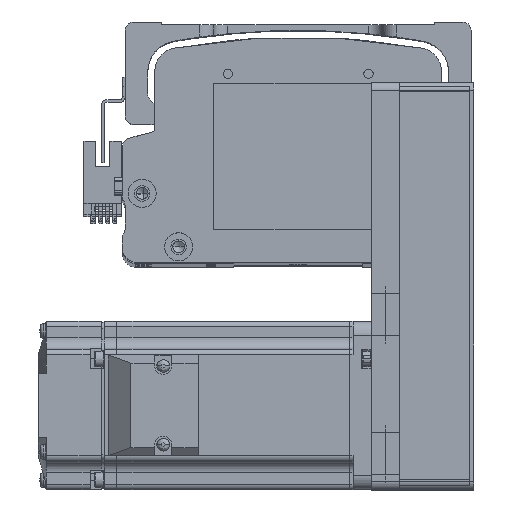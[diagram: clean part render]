
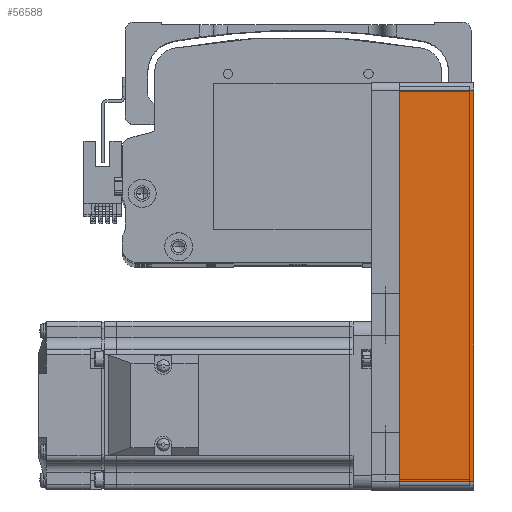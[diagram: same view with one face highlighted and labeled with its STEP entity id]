
A CAD part, top view. The second image highlights one B-rep face of the part: STEP entity #56588.
In plain terms, the highlighted planar face has unit normal (0, 0, 1) as drawn and (0, -1, 0) by its records, which use the part's own axes.
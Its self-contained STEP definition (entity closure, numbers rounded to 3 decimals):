
#4336 = CARTESIAN_POINT ( 'NONE',  ( 72.5, -30., 0. ) ) ;
#5888 = LINE ( 'NONE', #69046, #52781 ) ;
#8309 = CARTESIAN_POINT ( 'NONE',  ( -69.5, -30., 0. ) ) ;
#10793 = DIRECTION ( 'NONE',  ( 1., 0., 0. ) ) ;
#12136 = ORIENTED_EDGE ( 'NONE', *, *, #20473, .F. ) ;
#13749 = ORIENTED_EDGE ( 'NONE', *, *, #61125, .T. ) ;
#14767 = LINE ( 'NONE', #4336, #63685 ) ;
#16088 = CARTESIAN_POINT ( 'NONE',  ( 69.5, -30., 26.5 ) ) ;
#19118 = AXIS2_PLACEMENT_3D ( 'NONE', #66914, #28745, #73281 ) ;
#20473 = EDGE_CURVE ( 'NONE', #63090, #24195, #80944, .T. ) ;
#24195 = VERTEX_POINT ( 'NONE', #16088 ) ;
#26327 = EDGE_LOOP ( 'NONE', ( #13749, #37589, #12136, #67126 ) ) ;
#27168 = EDGE_CURVE ( 'NONE', #36450, #24195, #27257, .T. ) ;
#27257 = LINE ( 'NONE', #61302, #40201 ) ;
#28745 = DIRECTION ( 'NONE',  ( 0., 1., 0. ) ) ;
#29620 = DIRECTION ( 'NONE',  ( 1., 0., 0. ) ) ;
#36450 = VERTEX_POINT ( 'NONE', #71958 ) ;
#37589 = ORIENTED_EDGE ( 'NONE', *, *, #27168, .T. ) ;
#40201 = VECTOR ( 'NONE', #74085, 1000. ) ;
#40546 = CARTESIAN_POINT ( 'NONE',  ( -69.5, -30., 26.5 ) ) ;
#41188 = FACE_OUTER_BOUND ( 'NONE', #26327, .T. ) ;
#41265 = PLANE ( 'NONE',  #19118 ) ;
#52781 = VECTOR ( 'NONE', #56505, 1000. ) ;
#56505 = DIRECTION ( 'NONE',  ( 0., 0., -1. ) ) ;
#56588 = ADVANCED_FACE ( 'NONE', ( #41188 ), #41265, .F. ) ;
#61125 = EDGE_CURVE ( 'NONE', #73210, #36450, #14767, .T. ) ;
#61302 = CARTESIAN_POINT ( 'NONE',  ( 69.5, -30., 26.5 ) ) ;
#62020 = VECTOR ( 'NONE', #29620, 1000. ) ;
#63090 = VERTEX_POINT ( 'NONE', #40546 ) ;
#63685 = VECTOR ( 'NONE', #10793, 1000. ) ;
#66914 = CARTESIAN_POINT ( 'NONE',  ( 72.5, -30., 26.5 ) ) ;
#67126 = ORIENTED_EDGE ( 'NONE', *, *, #73529, .T. ) ;
#69046 = CARTESIAN_POINT ( 'NONE',  ( -69.5, -30., 26.5 ) ) ;
#71958 = CARTESIAN_POINT ( 'NONE',  ( 69.5, -30., 0. ) ) ;
#73210 = VERTEX_POINT ( 'NONE', #8309 ) ;
#73281 = DIRECTION ( 'NONE',  ( -1., 0., 0. ) ) ;
#73529 = EDGE_CURVE ( 'NONE', #63090, #73210, #5888, .T. ) ;
#74085 = DIRECTION ( 'NONE',  ( 0., 0., 1. ) ) ;
#74173 = CARTESIAN_POINT ( 'NONE',  ( 72.5, -30., 26.5 ) ) ;
#80944 = LINE ( 'NONE', #74173, #62020 ) ;
